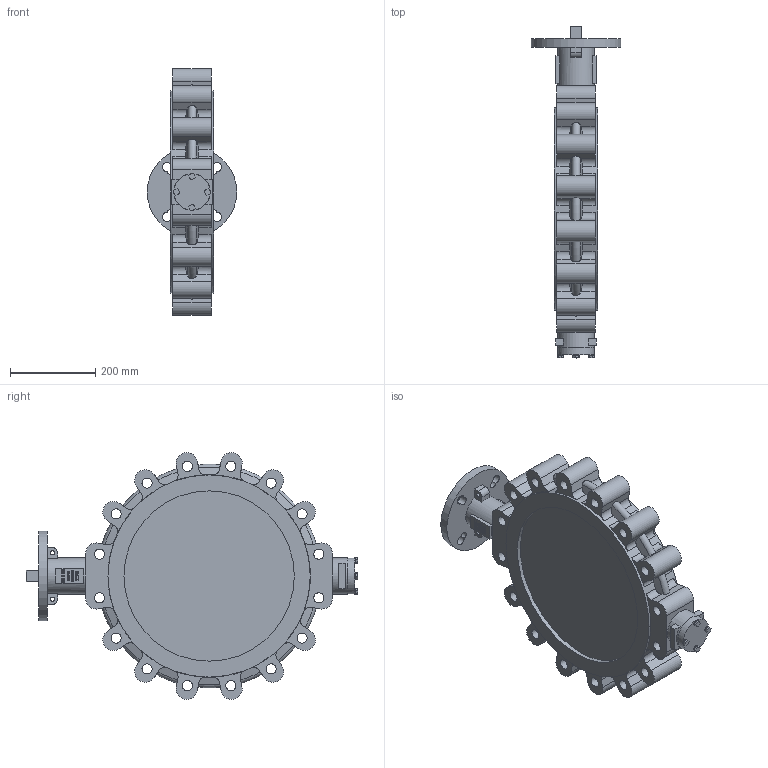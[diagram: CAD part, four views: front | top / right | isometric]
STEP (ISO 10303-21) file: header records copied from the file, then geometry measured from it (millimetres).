
FILE_DESCRIPTION(/* description */ (''),/* implementation_level */ '2;1');
FILE_NAME(/* name */ '6820-DN400-PN16-EPDM - 13332755.stp',/* time_stamp */ '2024-09-06T09:44:33+02:00',/* author */ ('roger.thijssen'),/* organization */ (''),/* preprocessor_version */ 'ST-DEVELOPER v20',/* originating_system */ 'Autodesk Inventor 2024',/* authorisation */ '');
FILE_SCHEMA (('AUTOMOTIVE_DESIGN { 1 0 10303 214 3 1 1 }'));
Length unit declared in the file: millimetre
Products named in the file (1): 6820-DN400-PN16
Bounding box: 210 x 779.55 x 579.42 mm (x, y, z)
Volume: 21210039.8 mm3; surface area: 974406.2 mm2
Topology: 1 solids, 1 shells, 679 faces, 1845 edges, 1211 vertices
Faces by surface type: plane 363, cylinder 143, bspline 126, cone 33, torus 14
Full cylindrical faces by diameter (mm): 6.647 x1, 10 x2, 12.88 x4, 23.752 x16, 84.8 x1, 85 x2, 210 x1, 400 x2, 475 x2
Entity records: 24355 total; most frequent: CARTESIAN_POINT 7226, ORIENTED_EDGE 3688, DIRECTION 2954, EDGE_CURVE 1844, VERTEX_POINT 1211, LINE 1042, VECTOR 1042, AXIS2_PLACEMENT_3D 956
